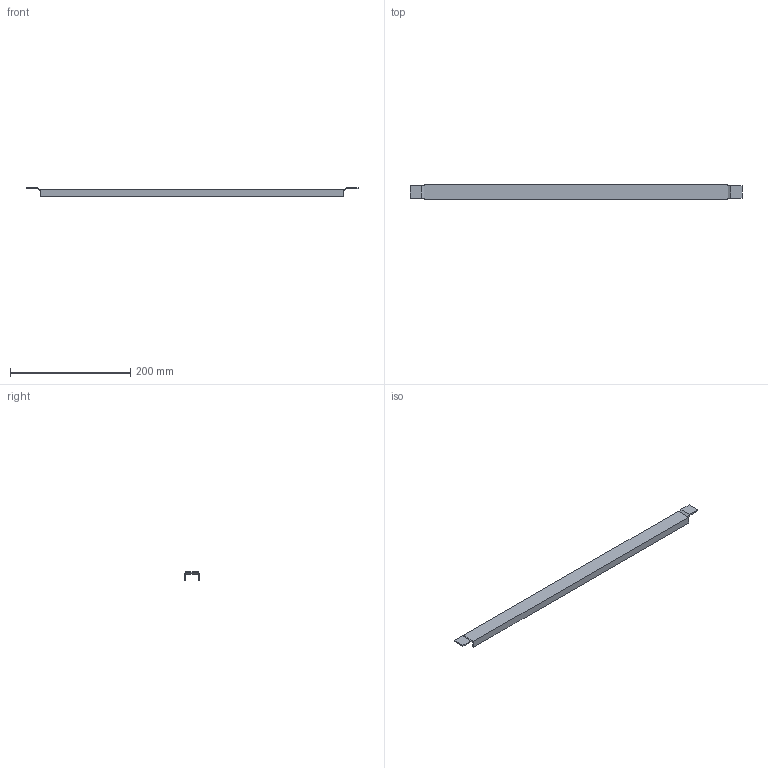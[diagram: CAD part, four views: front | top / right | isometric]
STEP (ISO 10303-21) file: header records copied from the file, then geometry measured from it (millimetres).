
FILE_DESCRIPTION( ( 'STEP AP214' ), '1' );
FILE_NAME( 'p:/temp/worker_129/temp/exporttempdir_4380_321_0ue3j/format_0/CMB602(0).stp', '2021-03-15T14:44:54', ( 'License CC BY-ND 4.0' ), ( 'CADENAS' ), ' ', 'PARTsolutions', ' ' );
FILE_SCHEMA( ( 'AUTOMOTIVE_DESIGN { 1 0 10303 214 1 1 1 1 }' ) );
Length unit declared in the file: millimetre
Products named in the file (1): _CMB602(0)
Bounding box: 552 x 24.5 x 14.31 mm (x, y, z)
Volume: 46922.7 mm3; surface area: 49313.7 mm2
Topology: 1 solids, 1 shells, 26 faces, 68 edges, 44 vertices
Faces by surface type: plane 26
Entity records: 1004 total; most frequent: CARTESIAN_POINT 139, ORIENTED_EDGE 136, DIRECTION 122, EDGE_CURVE 68, LINE 68, VECTOR 68, VERTEX_POINT 44, AXIS2_PLACEMENT_3D 27
